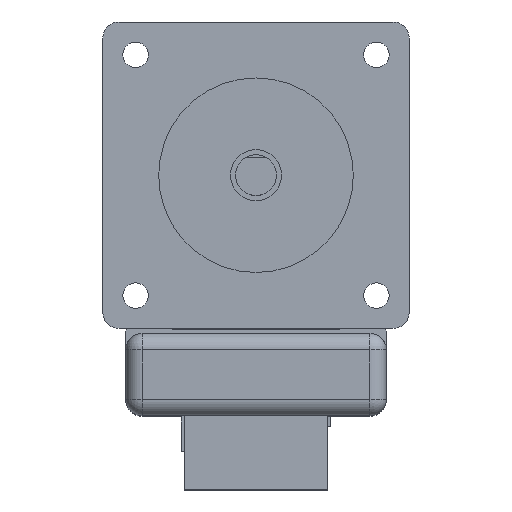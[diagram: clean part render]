
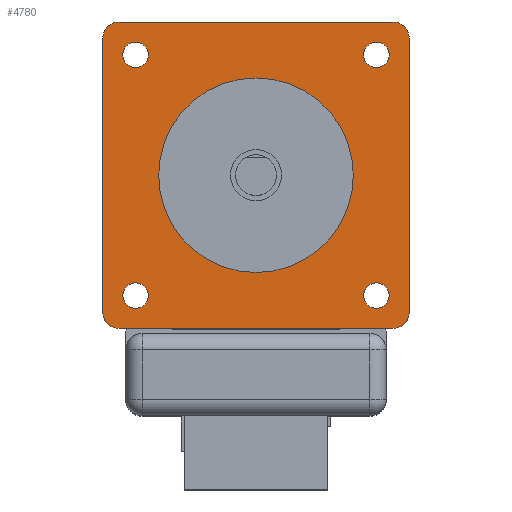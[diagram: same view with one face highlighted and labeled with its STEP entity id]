
A CAD part, top view. The second image highlights one B-rep face of the part: STEP entity #4780.
In plain terms, the highlighted planar face has unit normal (0, 0, 1).
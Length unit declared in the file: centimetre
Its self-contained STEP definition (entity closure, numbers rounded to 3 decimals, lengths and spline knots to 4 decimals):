
#1266=CARTESIAN_POINT('',(-2.68,2.68,7.5));
#1267=DIRECTION('',(0.,0.,1.));
#1268=DIRECTION('',(0.,1.,0.));
#1269=AXIS2_PLACEMENT_3D('',#1266,#1267,#1268);
#1271=DIRECTION('',(-1.,0.,0.));
#1272=VECTOR('',#1271,5.36);
#1273=CARTESIAN_POINT('',(2.68,3.,7.5));
#1274=LINE('',#1273,#1272);
#1275=CARTESIAN_POINT('',(2.68,2.68,7.5));
#1276=DIRECTION('',(0.,0.,1.));
#1277=DIRECTION('',(1.,0.,0.));
#1278=AXIS2_PLACEMENT_3D('',#1275,#1276,#1277);
#1280=DIRECTION('',(0.,1.,0.));
#1281=VECTOR('',#1280,5.36);
#1282=CARTESIAN_POINT('',(3.,-2.68,7.5));
#1283=LINE('',#1282,#1281);
#1284=CARTESIAN_POINT('',(2.68,-2.68,7.5));
#1285=DIRECTION('',(0.,0.,1.));
#1286=DIRECTION('',(0.,-1.,0.));
#1287=AXIS2_PLACEMENT_3D('',#1284,#1285,#1286);
#1289=DIRECTION('',(1.,0.,0.));
#1290=VECTOR('',#1289,5.36);
#1291=CARTESIAN_POINT('',(-2.68,-3.,7.5));
#1292=LINE('',#1291,#1290);
#1293=CARTESIAN_POINT('',(-2.68,-2.68,7.5));
#1294=DIRECTION('',(0.,0.,1.));
#1295=DIRECTION('',(-1.,0.,0.));
#1296=AXIS2_PLACEMENT_3D('',#1293,#1294,#1295);
#1298=DIRECTION('',(0.,-1.,0.));
#1299=VECTOR('',#1298,5.36);
#1300=CARTESIAN_POINT('',(-3.,2.68,7.5));
#1301=LINE('',#1300,#1299);
#1302=CARTESIAN_POINT('',(0.,0.,7.5));
#1303=DIRECTION('',(0.,0.,-1.));
#1304=DIRECTION('',(1.,0.,0.));
#1305=AXIS2_PLACEMENT_3D('',#1302,#1303,#1304);
#1307=CARTESIAN_POINT('',(0.,0.,7.5));
#1308=DIRECTION('',(0.,0.,-1.));
#1309=DIRECTION('',(-1.,0.,0.));
#1310=AXIS2_PLACEMENT_3D('',#1307,#1308,#1309);
#1312=CARTESIAN_POINT('',(2.357,2.357,7.5));
#1313=DIRECTION('',(0.,0.,-1.));
#1314=DIRECTION('',(1.,0.,0.));
#1315=AXIS2_PLACEMENT_3D('',#1312,#1313,#1314);
#1317=CARTESIAN_POINT('',(2.357,2.357,7.5));
#1318=DIRECTION('',(0.,0.,-1.));
#1319=DIRECTION('',(-1.,0.,0.));
#1320=AXIS2_PLACEMENT_3D('',#1317,#1318,#1319);
#1322=CARTESIAN_POINT('',(-2.357,-2.357,7.5));
#1323=DIRECTION('',(0.,0.,-1.));
#1324=DIRECTION('',(1.,0.,0.));
#1325=AXIS2_PLACEMENT_3D('',#1322,#1323,#1324);
#1327=CARTESIAN_POINT('',(-2.357,-2.357,7.5));
#1328=DIRECTION('',(0.,0.,-1.));
#1329=DIRECTION('',(-1.,0.,0.));
#1330=AXIS2_PLACEMENT_3D('',#1327,#1328,#1329);
#1332=CARTESIAN_POINT('',(2.357,-2.357,7.5));
#1333=DIRECTION('',(0.,0.,-1.));
#1334=DIRECTION('',(1.,0.,0.));
#1335=AXIS2_PLACEMENT_3D('',#1332,#1333,#1334);
#1337=CARTESIAN_POINT('',(2.357,-2.357,7.5));
#1338=DIRECTION('',(0.,0.,-1.));
#1339=DIRECTION('',(-1.,0.,0.));
#1340=AXIS2_PLACEMENT_3D('',#1337,#1338,#1339);
#1342=CARTESIAN_POINT('',(-2.357,2.357,7.5));
#1343=DIRECTION('',(0.,0.,-1.));
#1344=DIRECTION('',(1.,0.,0.));
#1345=AXIS2_PLACEMENT_3D('',#1342,#1343,#1344);
#1347=CARTESIAN_POINT('',(-2.357,2.357,7.5));
#1348=DIRECTION('',(0.,0.,-1.));
#1349=DIRECTION('',(-1.,0.,0.));
#1350=AXIS2_PLACEMENT_3D('',#1347,#1348,#1349);
#2825=CARTESIAN_POINT('',(3.,2.68,7.5));
#2826=VERTEX_POINT('',#2825);
#2827=CARTESIAN_POINT('',(3.,-2.68,7.5));
#2828=VERTEX_POINT('',#2827);
#2879=CARTESIAN_POINT('',(-2.68,3.,7.5));
#2880=VERTEX_POINT('',#2879);
#2881=CARTESIAN_POINT('',(2.68,3.,7.5));
#2882=VERTEX_POINT('',#2881);
#2897=CARTESIAN_POINT('',(-3.,-2.68,7.5));
#2898=VERTEX_POINT('',#2897);
#2899=CARTESIAN_POINT('',(-3.,2.68,7.5));
#2900=VERTEX_POINT('',#2899);
#2913=CARTESIAN_POINT('',(2.68,-3.,7.5));
#2914=VERTEX_POINT('',#2913);
#2915=CARTESIAN_POINT('',(-2.68,-3.,7.5));
#2916=VERTEX_POINT('',#2915);
#2939=CARTESIAN_POINT('',(-2.107,2.357,7.5));
#2941=VERTEX_POINT('',#2939);
#2943=CARTESIAN_POINT('',(-2.607,2.357,7.5));
#2945=VERTEX_POINT('',#2943);
#2947=CARTESIAN_POINT('',(2.607,-2.357,7.5));
#2949=VERTEX_POINT('',#2947);
#2951=CARTESIAN_POINT('',(2.107,-2.357,7.5));
#2953=VERTEX_POINT('',#2951);
#2955=CARTESIAN_POINT('',(-2.107,-2.357,7.5));
#2957=VERTEX_POINT('',#2955);
#2959=CARTESIAN_POINT('',(-2.607,-2.357,7.5));
#2961=VERTEX_POINT('',#2959);
#2963=CARTESIAN_POINT('',(2.607,2.357,7.5));
#2965=VERTEX_POINT('',#2963);
#2967=CARTESIAN_POINT('',(2.107,2.357,7.5));
#2969=VERTEX_POINT('',#2967);
#2987=CARTESIAN_POINT('',(-1.905,0.,7.5));
#2989=VERTEX_POINT('',#2987);
#2991=CARTESIAN_POINT('',(1.905,0.,7.5));
#2993=VERTEX_POINT('',#2991);
#4731=CARTESIAN_POINT('',(0.,0.,7.5));
#4732=DIRECTION('',(0.,0.,1.));
#4733=DIRECTION('',(1.,0.,0.));
#4734=AXIS2_PLACEMENT_3D('',#4731,#4732,#4733);
#4735=PLANE('',#4734);
#4737=ORIENTED_EDGE('',*,*,#4736,.F.);
#4738=ORIENTED_EDGE('',*,*,#4609,.F.);
#4740=ORIENTED_EDGE('',*,*,#4739,.F.);
#4741=ORIENTED_EDGE('',*,*,#3868,.F.);
#4743=ORIENTED_EDGE('',*,*,#4742,.F.);
#4745=ORIENTED_EDGE('',*,*,#4744,.F.);
#4747=ORIENTED_EDGE('',*,*,#4746,.F.);
#4749=ORIENTED_EDGE('',*,*,#4748,.F.);
#4750=EDGE_LOOP('',(#4737,#4738,#4740,#4741,#4743,#4745,#4747,#4749));
#4751=FACE_OUTER_BOUND('',#4750,.F.);
#4753=ORIENTED_EDGE('',*,*,#4752,.F.);
#4755=ORIENTED_EDGE('',*,*,#4754,.F.);
#4756=EDGE_LOOP('',(#4753,#4755));
#4757=FACE_BOUND('',#4756,.F.);
#4758=ORIENTED_EDGE('',*,*,#4725,.F.);
#4759=ORIENTED_EDGE('',*,*,#4711,.F.);
#4760=EDGE_LOOP('',(#4758,#4759));
#4761=FACE_BOUND('',#4760,.F.);
#4763=ORIENTED_EDGE('',*,*,#4762,.F.);
#4765=ORIENTED_EDGE('',*,*,#4764,.F.);
#4766=EDGE_LOOP('',(#4763,#4765));
#4767=FACE_BOUND('',#4766,.F.);
#4769=ORIENTED_EDGE('',*,*,#4768,.F.);
#4771=ORIENTED_EDGE('',*,*,#4770,.F.);
#4772=EDGE_LOOP('',(#4769,#4771));
#4773=FACE_BOUND('',#4772,.F.);
#4775=ORIENTED_EDGE('',*,*,#4774,.F.);
#4777=ORIENTED_EDGE('',*,*,#4776,.F.);
#4778=EDGE_LOOP('',(#4775,#4777));
#4779=FACE_BOUND('',#4778,.F.);
#4780=ADVANCED_FACE('',(#4751,#4757,#4761,#4767,#4773,#4779),#4735,.T.);
#1270=CIRCLE('',#1269,0.32);
#1279=CIRCLE('',#1278,0.32);
#1288=CIRCLE('',#1287,0.32);
#1297=CIRCLE('',#1296,0.32);
#1306=CIRCLE('',#1305,1.905);
#1311=CIRCLE('',#1310,1.905);
#1316=CIRCLE('',#1315,0.25);
#1321=CIRCLE('',#1320,0.25);
#1326=CIRCLE('',#1325,0.25);
#1331=CIRCLE('',#1330,0.25);
#1336=CIRCLE('',#1335,0.25);
#1341=CIRCLE('',#1340,0.25);
#1346=CIRCLE('',#1345,0.25);
#1351=CIRCLE('',#1350,0.25);
#3868=EDGE_CURVE('',#2828,#2826,#1283,.T.);
#4609=EDGE_CURVE('',#2882,#2880,#1274,.T.);
#4711=EDGE_CURVE('',#2969,#2965,#1321,.T.);
#4725=EDGE_CURVE('',#2965,#2969,#1316,.T.);
#4736=EDGE_CURVE('',#2880,#2900,#1270,.T.);
#4739=EDGE_CURVE('',#2826,#2882,#1279,.T.);
#4742=EDGE_CURVE('',#2914,#2828,#1288,.T.);
#4744=EDGE_CURVE('',#2916,#2914,#1292,.T.);
#4746=EDGE_CURVE('',#2898,#2916,#1297,.T.);
#4748=EDGE_CURVE('',#2900,#2898,#1301,.T.);
#4752=EDGE_CURVE('',#2993,#2989,#1306,.T.);
#4754=EDGE_CURVE('',#2989,#2993,#1311,.T.);
#4762=EDGE_CURVE('',#2957,#2961,#1326,.T.);
#4764=EDGE_CURVE('',#2961,#2957,#1331,.T.);
#4768=EDGE_CURVE('',#2949,#2953,#1336,.T.);
#4770=EDGE_CURVE('',#2953,#2949,#1341,.T.);
#4774=EDGE_CURVE('',#2941,#2945,#1346,.T.);
#4776=EDGE_CURVE('',#2945,#2941,#1351,.T.);
